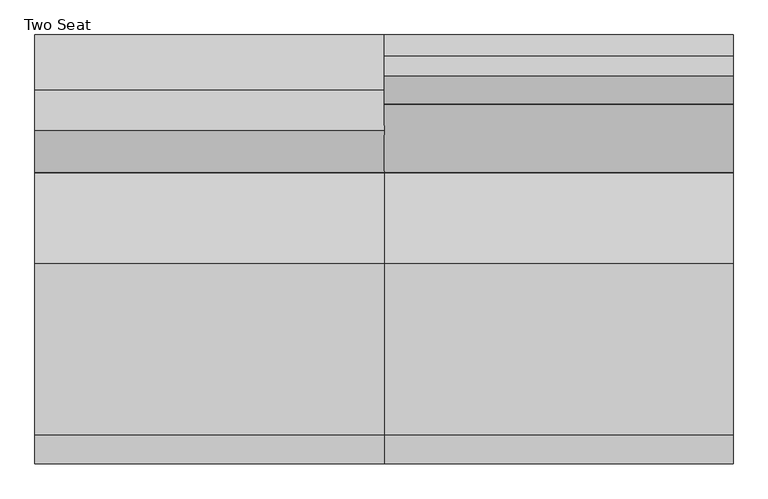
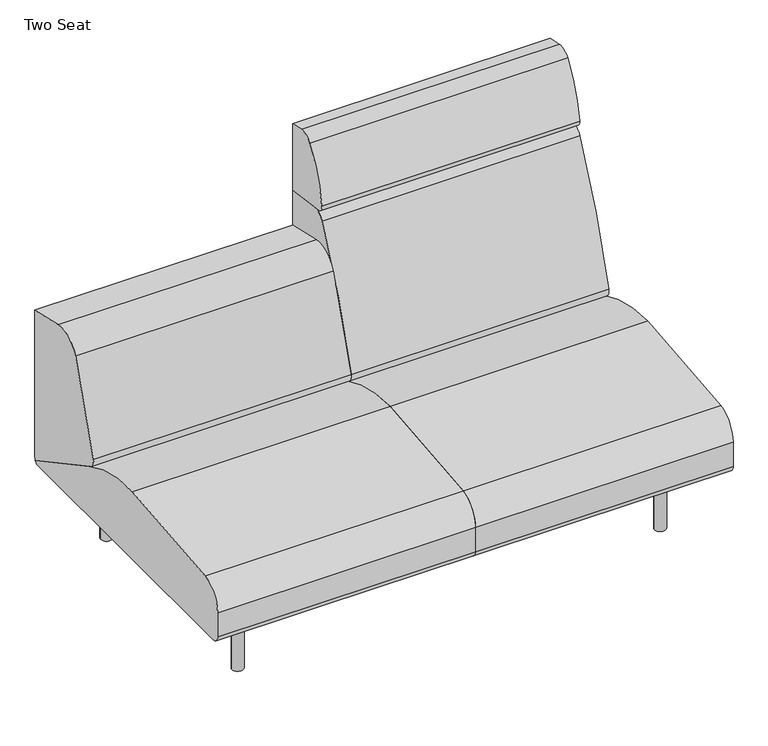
"""IFC4 building model written with IfcOpenShell, lengths in millimetres: furniture geometry, Coalesse_AM_Seating_LoungeChair_Sistema_LegBase_TwoSeat : Two Seat."""

import ifcopenshell
import ifcopenshell.guid

model = None  # the IFC model being written
_history = None  # IfcOwnerHistory: only IFC2X3 demands one
_inside = {}  # id of a spatial element -> (the spatial element, [elements in it])
_under = {}  # id of a project, library or spatial element -> (it, [spatial elements below it])
_declared = {}  # id of a project -> (the project, [libraries it declares])
_typed = {}  # id of a type object -> (the type object, [elements of that type])
_made_of = {}  # id of a material, layer set ... -> (it, [elements and type objects made of it])


def new_model(schema):
    """Start an empty IFC model of exactly this schema.

    Asked for "IFC4X3", IfcOpenShell would pick the latest addendum, in which some entities
    have other attributes; the version numbers below select the first issue.
    IFC2X3 requires an IfcOwnerHistory on every rooted entity: one is made here for all.
    """
    global model, _history
    if schema == "IFC4X3":
        model = ifcopenshell.file(schema_version=(4, 3, 0, 0))
    else:
        model = ifcopenshell.file(schema=schema)
    _inside.clear()
    _under.clear()
    _declared.clear()
    _typed.clear()
    _made_of.clear()
    _history = None
    if model.schema == "IFC2X3":
        org = make("IfcOrganization", Name="unknown")
        user = make(
            "IfcPersonAndOrganization",
            ThePerson=make("IfcPerson", FamilyName="unknown"),
            TheOrganization=org,
        )
        app = make(
            "IfcApplication",
            ApplicationDeveloper=org,
            Version="unknown",
            ApplicationFullName="unknown",
            ApplicationIdentifier="unknown",
        )
        _history = make(
            "IfcOwnerHistory",
            OwningUser=user,
            OwningApplication=app,
            ChangeAction="ADDED",
            CreationDate=0,
        )
    return model


def make(cls, **values):
    """One entity of the class cls with the attributes given. An attribute that is None is left unset."""
    return model.create_entity(
        cls, **{name: value for name, value in values.items() if value is not None}
    )


def rooted(cls, **values):
    """An entity with a GlobalId (a new one), such as an element, a storey or a relation."""
    return make(cls, GlobalId=ifcopenshell.guid.new(), OwnerHistory=_history, **values)


def si_unit(unit_type, name, prefix=None):
    """IfcSIUnit, for example si_unit("LENGTHUNIT", "METRE", prefix="MILLI")."""
    return make("IfcSIUnit", UnitType=unit_type, Prefix=prefix, Name=name)


def assignment(units):
    """IfcUnitAssignment: the units of a project."""
    return None if units is None else make("IfcUnitAssignment", Units=units)


def point(xyz):
    """IfcCartesianPoint."""
    return None if xyz is None else make("IfcCartesianPoint", Coordinates=xyz)


def direction(xyz):
    """IfcDirection."""
    return None if xyz is None else make("IfcDirection", DirectionRatios=xyz)


def frame(location, z_axis=None, x_axis=None):
    """IfcAxis2Placement3D, a coordinate frame: its origin and axes. An axis left out is left unset."""
    return make(
        "IfcAxis2Placement3D",
        Location=point(location),
        Axis=direction(z_axis),
        RefDirection=direction(x_axis),
    )


def frame_2d(location, x_axis=None):
    """IfcAxis2Placement2D, a coordinate frame in the plane: its origin and x axis."""
    return make(
        "IfcAxis2Placement2D", Location=point(location), RefDirection=direction(x_axis)
    )


def origin():
    """The frame at (0, 0, 0) with its axes left unset."""
    return frame((0.0, 0.0, 0.0))


def origin_with_axes():
    """The frame at (0, 0, 0) with the z axis (0, 0, 1) and the x axis (1, 0, 0) written out."""
    return frame((0.0, 0.0, 0.0), z_axis=(0.0, 0.0, 1.0), x_axis=(1.0, 0.0, 0.0))


def place(relative_to, where):
    """IfcLocalPlacement: puts the frame where relative to a parent placement (None: the world)."""
    return make(
        "IfcLocalPlacement", PlacementRelTo=relative_to, RelativePlacement=where
    )


def context(
    kind, dimensions, precision=None, world=None, true_north=None, identifier=None
):
    """IfcGeometricRepresentationContext, for example the 3D "Model" context."""
    return make(
        "IfcGeometricRepresentationContext",
        ContextIdentifier=identifier,
        ContextType=kind,
        CoordinateSpaceDimension=dimensions,
        Precision=precision,
        WorldCoordinateSystem=world,
        TrueNorth=true_north,
    )


def project(units=None, contexts=None):
    """IfcProject with its units and contexts."""
    return rooted(
        "IfcProject",
        Name="project",
        RepresentationContexts=contexts,
        UnitsInContext=assignment(units),
    )


def spatial(cls, under=None, at=None, **own):
    """A site, building, storey or space (cls), placed at a placement, below another one or the project."""
    s = rooted(cls, ObjectPlacement=at, **own)
    if under is not None:
        _under.setdefault(under.id(), (under, []))[1].append(s)
    return s


def polyline(points):
    """IfcPolyline through the points."""
    return make("IfcPolyline", Points=[point(p) for p in points])


def circle_curve(where, radius):
    """IfcCircle in the frame where."""
    return make("IfcCircle", Position=where, Radius=radius)


def trimmed(basis, trim1, trim2, sense, master):
    """IfcTrimmedCurve: the piece of a basis curve between two trims."""
    return make(
        "IfcTrimmedCurve",
        BasisCurve=basis,
        Trim1=trim1,
        Trim2=trim2,
        SenseAgreement=sense,
        MasterRepresentation=master,
    )


def segment(curve, same_sense, transition):
    """IfcCompositeCurveSegment."""
    return make(
        "IfcCompositeCurveSegment",
        Transition=transition,
        SameSense=same_sense,
        ParentCurve=curve,
    )


def composite_curve(segments, self_intersect=None):
    """IfcCompositeCurve: segments joined end to end."""
    return make("IfcCompositeCurve", Segments=segments, SelfIntersect=self_intersect)


def outline(outer, holes=None, kind="AREA"):
    """IfcArbitraryClosedProfileDef: a profile drawn as a closed curve; with holes, ...WithVoids."""
    if holes is None:
        return make("IfcArbitraryClosedProfileDef", ProfileType=kind, OuterCurve=outer)
    return make(
        "IfcArbitraryProfileDefWithVoids",
        ProfileType=kind,
        OuterCurve=outer,
        InnerCurves=holes,
    )


def extrude(swept, where, along, depth):
    """IfcExtrudedAreaSolid: the profile swept, set in the frame where, extruded along a direction by depth."""
    return make(
        "IfcExtrudedAreaSolid",
        SweptArea=swept,
        Position=where,
        ExtrudedDirection=direction(along),
        Depth=depth,
    )


def shape(context_of_items, identifier, shape_type, items):
    """IfcShapeRepresentation: the items that make up one representation, for example the "Body"."""
    return make(
        "IfcShapeRepresentation",
        ContextOfItems=context_of_items,
        RepresentationIdentifier=identifier,
        RepresentationType=shape_type,
        Items=items,
    )


def source(mapping_origin, context_of_items, identifier, shape_type, items):
    """IfcRepresentationMap: a shape defined once, which mapped items show again and again."""
    return make(
        "IfcRepresentationMap",
        MappingOrigin=mapping_origin,
        MappedRepresentation=shape(context_of_items, identifier, shape_type, items),
    )


def transform(
    local_origin,
    x_axis=None,
    y_axis=None,
    z_axis=None,
    scale=None,
    scale2=None,
    scale3=None,
    uniform=True,
):
    """IfcCartesianTransformationOperator3D, or its non-uniform kind. x_axis, y_axis, z_axis: its Axis1, 2, 3."""
    if uniform:
        return make(
            "IfcCartesianTransformationOperator3D",
            Axis1=direction(x_axis),
            Axis2=direction(y_axis),
            LocalOrigin=point(local_origin),
            Scale=scale,
            Axis3=direction(z_axis),
        )
    return make(
        "IfcCartesianTransformationOperator3DnonUniform",
        Axis1=direction(x_axis),
        Axis2=direction(y_axis),
        LocalOrigin=point(local_origin),
        Scale=scale,
        Axis3=direction(z_axis),
        Scale2=scale2,
        Scale3=scale3,
    )


def mapped(mapping_source, mapping_target):
    """IfcMappedItem: shows the shape of a source again, moved by a transform."""
    return make(
        "IfcMappedItem", MappingSource=mapping_source, MappingTarget=mapping_target
    )


def made_of(thing, what):
    """Note that an element or type object is made of a material, layer set ...; save() writes the relation."""
    if what is not None:
        _made_of.setdefault(what.id(), (what, []))[1].append(thing)
    return thing


def element(
    cls,
    number,
    at=None,
    inside=None,
    cuts=None,
    type_object=None,
    material=None,
    context=None,
    identifier="Body",
    shape_type=None,
    held_by="IfcProductDefinitionShape",
    body=None,
    shapes=None,
    **own,
):
    """One element of the class cls, such as IfcWall. Its Tag is "e" and its number.

    at: its placement. inside: the storey or other place that contains it. cuts: it is an
    opening in that element (IfcRelVoidsElement). A single representation is given by context,
    identifier, shape_type and body (its items); several are given by shapes. held_by: the class
    of the entity that holds the representations. save() writes the other relations.
    """
    e = rooted(cls, Tag="e%d" % number, ObjectPlacement=at, **own)
    if body is not None:
        shapes = [shape(context, identifier, shape_type, body)]
    if shapes is not None:
        e.Representation = make(held_by, Representations=shapes)
    if inside is not None:
        _inside.setdefault(inside.id(), (inside, []))[1].append(e)
    if cuts is not None:
        rooted(
            "IfcRelVoidsElement", RelatingBuildingElement=cuts, RelatedOpeningElement=e
        )
    if type_object is not None:
        _typed.setdefault(type_object.id(), (type_object, []))[1].append(e)
    return made_of(e, material)


def aggregate(whole, parts):
    """IfcRelAggregates: a whole, such as a stair, and the parts it consists of."""
    return rooted("IfcRelAggregates", RelatingObject=whole, RelatedObjects=parts)


def save(model, path):
    """Write the relations noted so far, then the file.

    IfcRelAggregates (storeys below a building ...), IfcRelContainedInSpatialStructure (elements
    in a storey), IfcRelDefinesByType, IfcRelAssociatesMaterial and IfcRelDeclares: one each for
    every whole, place, type object, material and project.
    """
    for whole, parts in _under.values():
        aggregate(whole, parts)
    for where, things in _inside.values():
        rooted(
            "IfcRelContainedInSpatialStructure",
            RelatedElements=things,
            RelatingStructure=where,
        )
    for kind, things in _typed.values():
        rooted("IfcRelDefinesByType", RelatedObjects=things, RelatingType=kind)
    for what, things in _made_of.values():
        rooted("IfcRelAssociatesMaterial", RelatedObjects=things, RelatingMaterial=what)
    for by, libraries in _declared.values():
        rooted("IfcRelDeclares", RelatingContext=by, RelatedDefinitions=libraries)
    model.write(path)


def two_seat_43e668df(model_context):
    return source(origin(), model_context, "Body", "SweptSolid", [
        extrude(outline(composite_curve([segment(trimmed(circle_curve(frame_2d((989.1765227, 335.9943389)), 6.096), [point((995.2725227, 335.9943389))], [point((983.0805227, 335.9943389))], False, "CARTESIAN"), True, "CONTINUOUS"), segment(trimmed(circle_curve(frame_2d((989.1765227, 335.9943389)), 6.096), [point((983.0805227, 335.9943389))], [point((995.2725227, 335.9943389))], False, "CARTESIAN"), True, "CONTINUOUS")], self_intersect=False)), origin_with_axes(), (0.0, 0.0, 1.0), 4.3662291),
        extrude(outline(composite_curve([segment(trimmed(circle_curve(frame_2d((989.1765227, -327.2630889)), 6.096), [point((995.2725227, -327.2630889))], [point((983.0805227, -327.2630889))], False, "CARTESIAN"), True, "CONTINUOUS"), segment(trimmed(circle_curve(frame_2d((989.1765227, -327.2630889)), 6.096), [point((983.0805227, -327.2630889))], [point((995.2725227, -327.2630889))], False, "CARTESIAN"), True, "CONTINUOUS")], self_intersect=False)), origin_with_axes(), (0.0, 0.0, 1.0), 4.3662291),
        extrude(outline(composite_curve([segment(polyline([(157.0399209, 1001.756375), (201.7356243, 1001.756375)]), True, "CONTINUOUS"), segment(trimmed(circle_curve(frame_2d((201.7356243, 998.708375)), 3.048), [point((201.7356243, 1001.756375))], [point((204.7836243, 998.708375))], False, "CARTESIAN"), True, "CONTINUOUS"), segment(polyline([(204.7836243, 998.708375), (204.7836243, 979.366199)]), True, "CONTINUOUS"), segment(trimmed(circle_curve(frame_2d((201.7356243, 979.366199)), 3.048), [point((204.7836243, 979.366199))], [point((201.7356243, 976.318199))], False, "CARTESIAN"), True, "CONTINUOUS"), segment(polyline([(201.7356243, 976.318199), (157.1249936, 976.318199)]), True, "CONTINUOUS"), segment(trimmed(circle_curve(frame_2d((157.1249936, 979.4512718)), 3.1330728), [point((157.1249936, 976.318199))], [point((153.9919209, 979.4512718))], False, "CARTESIAN"), True, "CONTINUOUS"), segment(polyline([(153.9919209, 979.4512718), (153.9919209, 998.708375)]), True, "CONTINUOUS"), segment(trimmed(circle_curve(frame_2d((157.0399209, 998.708375)), 3.048), [point((153.9919209, 998.708375))], [point((157.0399209, 1001.756375))], False, "CARTESIAN"), True, "CONTINUOUS")], self_intersect=False)), frame((0.0, 222.3519802, 0.0), z_axis=(0.0, 1.0, 0.0), x_axis=(0.0, 0.0, 1.0)), (0.0, 0.0, 1.0), 92.6273161),
        extrude(outline(composite_curve([segment(polyline([(157.0399209, 1001.756375), (201.7356243, 1001.756375)]), True, "CONTINUOUS"), segment(trimmed(circle_curve(frame_2d((201.7356243, 998.708375)), 3.048), [point((201.7356243, 1001.756375))], [point((204.7836243, 998.708375))], False, "CARTESIAN"), True, "CONTINUOUS"), segment(polyline([(204.7836243, 998.708375), (204.7836243, 979.366199)]), True, "CONTINUOUS"), segment(trimmed(circle_curve(frame_2d((201.7356243, 979.366199)), 3.048), [point((204.7836243, 979.366199))], [point((201.7356243, 976.318199))], False, "CARTESIAN"), True, "CONTINUOUS"), segment(polyline([(201.7356243, 976.318199), (157.1249936, 976.318199)]), True, "CONTINUOUS"), segment(trimmed(circle_curve(frame_2d((157.1249936, 979.4512718)), 3.1330728), [point((157.1249936, 976.318199))], [point((153.9919209, 979.4512718))], False, "CARTESIAN"), True, "CONTINUOUS"), segment(polyline([(153.9919209, 979.4512718), (153.9919209, 998.708375)]), True, "CONTINUOUS"), segment(trimmed(circle_curve(frame_2d((157.0399209, 998.708375)), 3.048), [point((153.9919209, 998.708375))], [point((157.0399209, 1001.756375))], False, "CARTESIAN"), True, "CONTINUOUS")], self_intersect=False)), frame((0.0, -314.9792963, 0.0), z_axis=(0.0, 1.0, 0.0), x_axis=(0.0, 0.0, 1.0)), (0.0, 0.0, 1.0), 92.6273161),
        extrude(outline(composite_curve([segment(trimmed(circle_curve(frame_2d((176.3356606, 966.5259944)), 3.048), [point((179.3836606, 966.5259944))], [point((176.3356606, 963.4779944))], False, "CARTESIAN"), True, "CONTINUOUS"), segment(polyline([(176.3356606, 963.4779944), (157.0399209, 963.4779944)]), True, "CONTINUOUS"), segment(trimmed(circle_curve(frame_2d((157.0399209, 966.5259944)), 3.048), [point((157.0399209, 963.4779944))], [point((153.9919209, 966.5259944))], False, "CARTESIAN"), True, "CONTINUOUS"), segment(polyline([(153.9919209, 966.5259944), (153.9919209, 1011.2135501)]), True, "CONTINUOUS"), segment(trimmed(circle_curve(frame_2d((157.056462, 1011.2135501)), 3.0645412), [point((153.9919209, 1011.2135501))], [point((157.056462, 1014.2780913))], False, "CARTESIAN"), True, "CONTINUOUS"), segment(polyline([(157.056462, 1014.2780913), (176.3356606, 1014.2780913)]), True, "CONTINUOUS"), segment(trimmed(circle_curve(frame_2d((176.3356606, 1011.2300913)), 3.048), [point((176.3356606, 1014.2780913))], [point((179.3836606, 1011.2300913))], False, "CARTESIAN"), True, "CONTINUOUS"), segment(polyline([(179.3836606, 1011.2300913), (179.3836606, 966.5259944)]), True, "CONTINUOUS")], self_intersect=False)), frame((0.0, -222.3519802, 0.0), z_axis=(0.0, 1.0, 0.0), x_axis=(0.0, 0.0, 1.0)), (0.0, 0.0, 1.0), 444.7039604),
        extrude(outline(composite_curve([segment(trimmed(circle_curve(frame_2d((989.1765227, 332.3095741)), 16.51), [point((1005.6865227, 332.3095741))], [point((972.6665227, 332.3095741))], False, "CARTESIAN"), True, "CONTINUOUS"), segment(trimmed(circle_curve(frame_2d((989.1765227, 332.3095741)), 16.51), [point((972.6665227, 332.3095741))], [point((1005.6865227, 332.3095741))], False, "CARTESIAN"), True, "CONTINUOUS")], self_intersect=False)), frame((0.0, 0.0, 4.3662291), z_axis=(0.0, 0.0, 1.0), x_axis=(1.0, 0.0, 0.0)), (0.0, 0.0, 1.0), 200.1037709),
        extrude(outline(composite_curve([segment(trimmed(circle_curve(frame_2d((988.7796477, -327.5470741)), 16.51), [point((1005.2896477, -327.5470741))], [point((972.2696477, -327.5470741))], False, "CARTESIAN"), True, "CONTINUOUS"), segment(trimmed(circle_curve(frame_2d((988.7796477, -327.5470741)), 16.51), [point((972.2696477, -327.5470741))], [point((1005.2896477, -327.5470741))], False, "CARTESIAN"), True, "CONTINUOUS")], self_intersect=False)), frame((0.0, 0.0, 4.3662291), z_axis=(0.0, 0.0, 1.0), x_axis=(1.0, 0.0, 0.0)), (0.0, 0.0, 1.0), 200.1037709),
        extrude(outline(composite_curve([segment(polyline([(459.4795619, 673.6041325), (459.4795619, 228.1929806)]), True, "CONTINUOUS"), segment(trimmed(circle_curve(frame_2d((191.495971, 228.1929806)), 267.983591), [point((459.4795619, 228.1929806))], [point((458.9860775, 211.937276))], False, "CARTESIAN"), True, "CONTINUOUS"), segment(polyline([(458.9860775, 211.937276), (177.4990556, 364.1028799)]), True, "CONTINUOUS"), segment(trimmed(circle_curve(frame_2d((189.5778307, 386.4470781)), 25.4), [point((177.4990556, 364.1028799))], [point((164.9600055, 392.7018911))], False, "CARTESIAN"), True, "CONTINUOUS"), segment(trimmed(circle_curve(frame_2d((1918.112812, -52.7331923)), 1808.8552115), [point((164.9600055, 392.7018911))], [point((254.1018253, 656.5090883))], False, "CARTESIAN"), True, "CONTINUOUS"), segment(trimmed(circle_curve(frame_2d((324.2001043, 626.6314831)), 76.2), [point((254.1018253, 656.5090883))], [point((341.3413746, 700.8784821))], False, "CARTESIAN"), True, "CONTINUOUS"), segment(polyline([(341.3413746, 700.8784821), (459.4795619, 673.6041325)]), True, "CONTINUOUS")], self_intersect=False)), frame((-374.8034773, 0.0, 0.0), z_axis=(1.0, 0.0, 0.0), x_axis=(0.0, 1.0, 0.0)), (0.0, 0.0, 1.0), 749.3),
        extrude(outline(composite_curve([segment(trimmed(circle_curve(frame_2d((-438.9184381, 226.822)), 22.352), [point((-438.9184381, 204.47))], [point((-461.2704381, 226.822))], False, "CARTESIAN"), True, "CONTINUOUS"), segment(polyline([(-461.2704381, 226.822), (-461.2704381, 301.4421993)]), True, "CONTINUOUS"), segment(trimmed(circle_curve(frame_2d((-385.0704381, 301.4421993)), 76.2), [point((-461.2704381, 301.4421993))], [point((-398.9277015, 376.3716077))], False, "CARTESIAN"), True, "CONTINUOUS"), segment(trimmed(circle_curve(frame_2d((2.2103559, -1792.6740646)), 2205.8265729), [point((-398.9277015, 376.3716077))], [point((-31.1968175, 412.8995185))], False, "CARTESIAN"), True, "CONTINUOUS"), segment(trimmed(circle_curve(frame_2d((-24.5128424, -28.3829182)), 441.333054), [point((-31.1968175, 412.8995185))], [point((184.5757008, 360.2774035))], False, "CARTESIAN"), True, "CONTINUOUS"), segment(polyline([(184.5757008, 360.2774035), (458.9860775, 211.937276)]), True, "CONTINUOUS"), segment(trimmed(circle_curve(frame_2d((442.3266309, 226.7871991)), 22.3171991), [point((458.9860775, 211.937276))], [point((442.3266309, 204.47))], False, "CARTESIAN"), True, "CONTINUOUS"), segment(polyline([(442.3266309, 204.47), (-438.9184381, 204.47)]), True, "CONTINUOUS")], self_intersect=False)), frame((-374.8034773, 0.0, 0.0), z_axis=(1.0, 0.0, 0.0), x_axis=(0.0, 1.0, 0.0)), (0.0, 0.0, 1.0), 749.3),
        extrude(outline(composite_curve([segment(polyline([(459.4795619, 985.4592709), (459.4795619, 780.845009), (327.9700683, 799.327463)]), True, "CONTINUOUS"), segment(trimmed(circle_curve(frame_2d((330.6213159, 818.1920697)), 19.05), [point((327.9700683, 799.327463))], [point((311.7521971, 820.8110119))], False, "CARTESIAN"), True, "CONTINUOUS"), segment(trimmed(circle_curve(frame_2d((679.5815991, 769.7580741)), 371.3554516), [point((311.7521971, 820.8110119))], [point((372.1246101, 978.0249014))], False, "CARTESIAN"), True, "CONTINUOUS"), segment(trimmed(circle_curve(frame_2d((405.8944569, 955.1497055)), 40.7881985), [point((372.1246101, 978.0249014))], [point((414.3748002, 995.046584))], False, "CARTESIAN"), True, "CONTINUOUS"), segment(polyline([(414.3748002, 995.046584), (459.4795619, 985.4592709)]), True, "CONTINUOUS")], self_intersect=False)), frame((374.4965227, 0.0, 0.0), z_axis=(1.0, 0.0, 0.0), x_axis=(0.0, 1.0, 0.0)), (0.0, 0.0, 1.0), 749.3),
        extrude(outline(composite_curve([segment(polyline([(459.4795619, 780.845009), (459.4795619, 228.1929806)]), True, "CONTINUOUS"), segment(trimmed(circle_curve(frame_2d((191.495971, 228.1929806)), 267.983591), [point((459.4795619, 228.1929806))], [point((458.9860775, 211.937276))], False, "CARTESIAN"), True, "CONTINUOUS"), segment(polyline([(458.9860775, 211.937276), (177.4990556, 364.1028799)]), True, "CONTINUOUS"), segment(trimmed(circle_curve(frame_2d((189.5778307, 386.4470781)), 25.4), [point((177.4990556, 364.1028799))], [point((164.9600055, 392.7018911))], False, "CARTESIAN"), True, "CONTINUOUS"), segment(trimmed(circle_curve(frame_2d((1918.112812, -52.7331923)), 1808.8552115), [point((164.9600055, 392.7018911))], [point((310.2880264, 776.0349508))], False, "CARTESIAN"), True, "CONTINUOUS"), segment(trimmed(circle_curve(frame_2d((344.1537133, 758.5785695)), 38.1), [point((310.2880264, 776.0349508))], [point((349.4562085, 796.3077829))], False, "CARTESIAN"), True, "CONTINUOUS"), segment(polyline([(349.4562085, 796.3077829), (459.4795619, 780.845009)]), True, "CONTINUOUS")], self_intersect=False)), frame((374.4965227, 0.0, 0.0), z_axis=(1.0, 0.0, 0.0), x_axis=(0.0, 1.0, 0.0)), (0.0, 0.0, 1.0), 749.3),
        extrude(outline(composite_curve([segment(trimmed(circle_curve(frame_2d((-438.9184381, 226.822)), 22.352), [point((-438.9184381, 204.47))], [point((-461.2704381, 226.822))], False, "CARTESIAN"), True, "CONTINUOUS"), segment(polyline([(-461.2704381, 226.822), (-461.2704381, 301.4421993)]), True, "CONTINUOUS"), segment(trimmed(circle_curve(frame_2d((-385.0704381, 301.4421993)), 76.2), [point((-461.2704381, 301.4421993))], [point((-398.9277015, 376.3716077))], False, "CARTESIAN"), True, "CONTINUOUS"), segment(trimmed(circle_curve(frame_2d((2.2103559, -1792.6740646)), 2205.8265729), [point((-398.9277015, 376.3716077))], [point((-31.1968175, 412.8995185))], False, "CARTESIAN"), True, "CONTINUOUS"), segment(trimmed(circle_curve(frame_2d((-24.5128424, -28.3829182)), 441.333054), [point((-31.1968175, 412.8995185))], [point((184.5757008, 360.2774035))], False, "CARTESIAN"), True, "CONTINUOUS"), segment(polyline([(184.5757008, 360.2774035), (458.9860775, 211.937276)]), True, "CONTINUOUS"), segment(trimmed(circle_curve(frame_2d((442.3266309, 226.7871991)), 22.3171991), [point((458.9860775, 211.937276))], [point((442.3266309, 204.47))], False, "CARTESIAN"), True, "CONTINUOUS"), segment(polyline([(442.3266309, 204.47), (-438.9184381, 204.47)]), True, "CONTINUOUS")], self_intersect=False)), frame((374.4965227, 0.0, 0.0), z_axis=(1.0, 0.0, 0.0), x_axis=(0.0, 1.0, 0.0)), (0.0, 0.0, 1.0), 749.3),
        extrude(outline(composite_curve([segment(trimmed(circle_curve(frame_2d((-240.1834773, 335.9943389)), 6.096), [point((-246.2794773, 335.9943389))], [point((-234.0874773, 335.9943389))], False, "CARTESIAN"), True, "CONTINUOUS"), segment(trimmed(circle_curve(frame_2d((-240.1834773, 335.9943389)), 6.096), [point((-234.0874773, 335.9943389))], [point((-246.2794773, 335.9943389))], False, "CARTESIAN"), True, "CONTINUOUS")], self_intersect=False)), origin_with_axes(), (0.0, 0.0, 1.0), 4.3662291),
        extrude(outline(composite_curve([segment(trimmed(circle_curve(frame_2d((-240.1834773, -327.2630889)), 6.096), [point((-246.2794773, -327.2630889))], [point((-234.0874773, -327.2630889))], False, "CARTESIAN"), True, "CONTINUOUS"), segment(trimmed(circle_curve(frame_2d((-240.1834773, -327.2630889)), 6.096), [point((-234.0874773, -327.2630889))], [point((-246.2794773, -327.2630889))], False, "CARTESIAN"), True, "CONTINUOUS")], self_intersect=False)), origin_with_axes(), (0.0, 0.0, 1.0), 4.3662291),
        extrude(outline(composite_curve([segment(trimmed(circle_curve(frame_2d((157.0399209, -249.7153296)), 3.048), [point((157.0399209, -252.7633296))], [point((153.9919209, -249.7153296))], False, "CARTESIAN"), True, "CONTINUOUS"), segment(polyline([(153.9919209, -249.7153296), (153.9919209, -230.4582264)]), True, "CONTINUOUS"), segment(trimmed(circle_curve(frame_2d((157.1249936, -230.4582264)), 3.1330728), [point((153.9919209, -230.4582264))], [point((157.1249936, -227.3251537))], False, "CARTESIAN"), True, "CONTINUOUS"), segment(polyline([(157.1249936, -227.3251537), (201.7356243, -227.3251537)]), True, "CONTINUOUS"), segment(trimmed(circle_curve(frame_2d((201.7356243, -230.3731537)), 3.048), [point((201.7356243, -227.3251537))], [point((204.7836243, -230.3731537))], False, "CARTESIAN"), True, "CONTINUOUS"), segment(polyline([(204.7836243, -230.3731537), (204.7836243, -249.7153296)]), True, "CONTINUOUS"), segment(trimmed(circle_curve(frame_2d((201.7356243, -249.7153296)), 3.048), [point((204.7836243, -249.7153296))], [point((201.7356243, -252.7633296))], False, "CARTESIAN"), True, "CONTINUOUS"), segment(polyline([(201.7356243, -252.7633296), (157.0399209, -252.7633296)]), True, "CONTINUOUS")], self_intersect=False)), frame((0.0, 222.3519802, 0.0), z_axis=(0.0, 1.0, 0.0), x_axis=(0.0, 0.0, 1.0)), (0.0, 0.0, 1.0), 92.6273161),
        extrude(outline(composite_curve([segment(trimmed(circle_curve(frame_2d((157.0399209, -249.7153296)), 3.048), [point((157.0399209, -252.7633296))], [point((153.9919209, -249.7153296))], False, "CARTESIAN"), True, "CONTINUOUS"), segment(polyline([(153.9919209, -249.7153296), (153.9919209, -230.4582264)]), True, "CONTINUOUS"), segment(trimmed(circle_curve(frame_2d((157.1249936, -230.4582264)), 3.1330728), [point((153.9919209, -230.4582264))], [point((157.1249936, -227.3251537))], False, "CARTESIAN"), True, "CONTINUOUS"), segment(polyline([(157.1249936, -227.3251537), (201.7356243, -227.3251537)]), True, "CONTINUOUS"), segment(trimmed(circle_curve(frame_2d((201.7356243, -230.3731537)), 3.048), [point((201.7356243, -227.3251537))], [point((204.7836243, -230.3731537))], False, "CARTESIAN"), True, "CONTINUOUS"), segment(polyline([(204.7836243, -230.3731537), (204.7836243, -249.7153296)]), True, "CONTINUOUS"), segment(trimmed(circle_curve(frame_2d((201.7356243, -249.7153296)), 3.048), [point((204.7836243, -249.7153296))], [point((201.7356243, -252.7633296))], False, "CARTESIAN"), True, "CONTINUOUS"), segment(polyline([(201.7356243, -252.7633296), (157.0399209, -252.7633296)]), True, "CONTINUOUS")], self_intersect=False)), frame((0.0, -314.9792963, 0.0), z_axis=(0.0, 1.0, 0.0), x_axis=(0.0, 0.0, 1.0)), (0.0, 0.0, 1.0), 92.6273161),
        extrude(outline(composite_curve([segment(polyline([(179.3836606, -217.532949), (179.3836606, -262.2370459)]), True, "CONTINUOUS"), segment(trimmed(circle_curve(frame_2d((176.3356606, -262.2370459)), 3.048), [point((179.3836606, -262.2370459))], [point((176.3356606, -265.2850459))], False, "CARTESIAN"), True, "CONTINUOUS"), segment(polyline([(176.3356606, -265.2850459), (157.056462, -265.2850459)]), True, "CONTINUOUS"), segment(trimmed(circle_curve(frame_2d((157.056462, -262.2205047)), 3.0645412), [point((157.056462, -265.2850459))], [point((153.9919209, -262.2205047))], False, "CARTESIAN"), True, "CONTINUOUS"), segment(polyline([(153.9919209, -262.2205047), (153.9919209, -217.532949)]), True, "CONTINUOUS"), segment(trimmed(circle_curve(frame_2d((157.0399209, -217.532949)), 3.048), [point((153.9919209, -217.532949))], [point((157.0399209, -214.484949))], False, "CARTESIAN"), True, "CONTINUOUS"), segment(polyline([(157.0399209, -214.484949), (176.3356606, -214.484949)]), True, "CONTINUOUS"), segment(trimmed(circle_curve(frame_2d((176.3356606, -217.532949)), 3.048), [point((176.3356606, -214.484949))], [point((179.3836606, -217.532949))], False, "CARTESIAN"), True, "CONTINUOUS")], self_intersect=False)), frame((0.0, -222.3519802, 0.0), z_axis=(0.0, 1.0, 0.0), x_axis=(0.0, 0.0, 1.0)), (0.0, 0.0, 1.0), 444.7039604),
        extrude(outline(composite_curve([segment(trimmed(circle_curve(frame_2d((-240.1834773, 332.3095741)), 16.51), [point((-256.6934773, 332.3095741))], [point((-223.6734773, 332.3095741))], False, "CARTESIAN"), True, "CONTINUOUS"), segment(trimmed(circle_curve(frame_2d((-240.1834773, 332.3095741)), 16.51), [point((-223.6734773, 332.3095741))], [point((-256.6934773, 332.3095741))], False, "CARTESIAN"), True, "CONTINUOUS")], self_intersect=False)), frame((0.0, 0.0, 4.3662291), z_axis=(0.0, 0.0, 1.0), x_axis=(1.0, 0.0, 0.0)), (0.0, 0.0, 1.0), 200.1037709),
        extrude(outline(composite_curve([segment(trimmed(circle_curve(frame_2d((-239.7866023, -327.5470741)), 16.51), [point((-256.2966023, -327.5470741))], [point((-223.2766023, -327.5470741))], False, "CARTESIAN"), True, "CONTINUOUS"), segment(trimmed(circle_curve(frame_2d((-239.7866023, -327.5470741)), 16.51), [point((-223.2766023, -327.5470741))], [point((-256.2966023, -327.5470741))], False, "CARTESIAN"), True, "CONTINUOUS")], self_intersect=False)), frame((0.0, 0.0, 4.3662291), z_axis=(0.0, 0.0, 1.0), x_axis=(1.0, 0.0, 0.0)), (0.0, 0.0, 1.0), 200.1037709),
    ])


if __name__ == "__main__":
    model = new_model("IFC4")
    model_context = context("Model", 3, world=origin())
    ifc_project = project(units=[si_unit("LENGTHUNIT", "METRE", prefix="MILLI")], contexts=[model_context])
    site = spatial("IfcSite", under=ifc_project)
    building = spatial("IfcBuilding", under=site)
    placement = place(None, origin())
    two_seat_shape = two_seat_43e668df(model_context)
    element("IfcFurniture", 1, ObjectType="Coalesse_AM_Seating_LoungeChair_Sistema_LegBase_TwoSeat : Two Seat", at=placement, inside=building, context=model_context, shape_type="MappedRepresentation", body=[
        mapped(two_seat_shape, transform((0.0, 0.0, 0.0), x_axis=(1.0, 0.0, 0.0), y_axis=(0.0, 1.0, 0.0), z_axis=(0.0, 0.0, 1.0))),
    ])
    save(model, "model.ifc")
